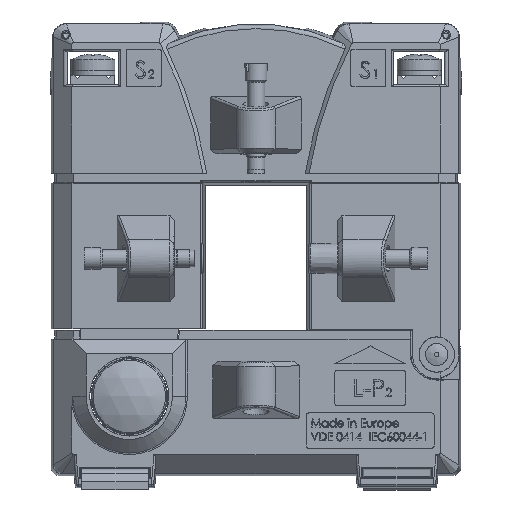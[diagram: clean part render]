
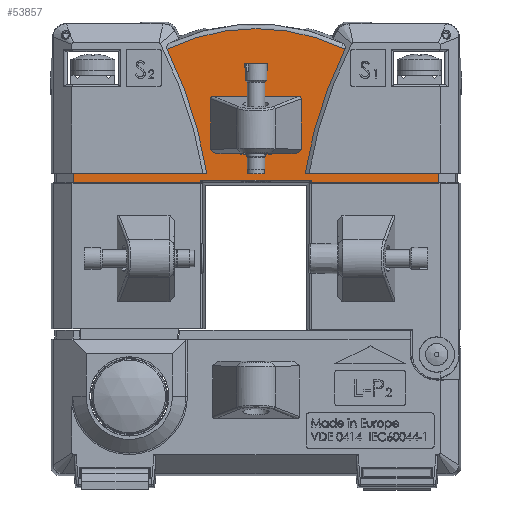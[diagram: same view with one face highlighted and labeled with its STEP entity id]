
A CAD part, top view. The second image highlights one B-rep face of the part: STEP entity #53857.
In plain terms, the highlighted planar face has unit normal (0, 0, 1).
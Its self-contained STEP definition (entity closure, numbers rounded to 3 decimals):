
#1165=ELLIPSE('',#57369,0.502,0.5);
#1166=ELLIPSE('',#57373,0.502,0.5);
#1167=ELLIPSE('',#57374,0.588,0.5);
#1168=ELLIPSE('',#57375,0.588,0.5);
#2577=FACE_BOUND('',#6639,.T.);
#3500=FACE_OUTER_BOUND('',#6638,.T.);
#6638=EDGE_LOOP('',(#36971,#36972,#36973,#36974,#36975,#36976,#36977,#36978,
#36979,#36980,#36981,#36982,#36983,#36984));
#6639=EDGE_LOOP('',(#36985,#36986,#36987,#36988,#36989,#36990,#36991,#36992));
#10426=LINE('',#80992,#15790);
#10430=LINE('',#81020,#15794);
#10431=LINE('',#81022,#15795);
#10432=LINE('',#81026,#15796);
#10433=LINE('',#81028,#15797);
#10434=LINE('',#81030,#15798);
#10435=LINE('',#81038,#15799);
#10436=LINE('',#81040,#15800);
#10437=LINE('',#81042,#15801);
#10438=LINE('',#81045,#15802);
#10439=LINE('',#81051,#15803);
#10440=LINE('',#81053,#15804);
#10441=LINE('',#81055,#15805);
#10442=LINE('',#81057,#15806);
#10443=LINE('',#81058,#15807);
#15790=VECTOR('',#63509,1000.);
#15794=VECTOR('',#63525,1000.);
#15795=VECTOR('',#63526,1000.);
#15796=VECTOR('',#63529,1000.);
#15797=VECTOR('',#63530,1000.);
#15798=VECTOR('',#63531,1000.);
#15799=VECTOR('',#63538,1000.);
#15800=VECTOR('',#63539,1000.);
#15801=VECTOR('',#63540,1000.);
#15802=VECTOR('',#63543,1000.);
#15803=VECTOR('',#63548,1000.);
#15804=VECTOR('',#63549,1000.);
#15805=VECTOR('',#63550,1000.);
#15806=VECTOR('',#63551,1000.);
#15807=VECTOR('',#63552,1000.);
#20676=CIRCLE('',#57370,100.117);
#20677=CIRCLE('',#57371,45.969);
#20678=CIRCLE('',#57372,100.117);
#22859=VERTEX_POINT('',#80990);
#22860=VERTEX_POINT('',#80991);
#22867=VERTEX_POINT('',#81018);
#22868=VERTEX_POINT('',#81019);
#22869=VERTEX_POINT('',#81021);
#22870=VERTEX_POINT('',#81023);
#22871=VERTEX_POINT('',#81025);
#22872=VERTEX_POINT('',#81027);
#22873=VERTEX_POINT('',#81029);
#22874=VERTEX_POINT('',#81031);
#22875=VERTEX_POINT('',#81033);
#22876=VERTEX_POINT('',#81035);
#22877=VERTEX_POINT('',#81037);
#22878=VERTEX_POINT('',#81039);
#22879=VERTEX_POINT('',#81041);
#22880=VERTEX_POINT('',#81043);
#22881=VERTEX_POINT('',#81046);
#22882=VERTEX_POINT('',#81048);
#22883=VERTEX_POINT('',#81050);
#22884=VERTEX_POINT('',#81052);
#22885=VERTEX_POINT('',#81054);
#22886=VERTEX_POINT('',#81056);
#28329=EDGE_CURVE('',#22859,#22860,#10426,.T.);
#28338=EDGE_CURVE('',#22867,#22868,#10430,.T.);
#28339=EDGE_CURVE('',#22868,#22869,#10431,.T.);
#28340=EDGE_CURVE('',#22869,#22870,#1165,.T.);
#28341=EDGE_CURVE('',#22870,#22871,#10432,.T.);
#28342=EDGE_CURVE('',#22871,#22872,#10433,.T.);
#28343=EDGE_CURVE('',#22873,#22872,#10434,.T.);
#28344=EDGE_CURVE('',#22873,#22874,#20676,.T.);
#28345=EDGE_CURVE('',#22874,#22875,#20677,.T.);
#28346=EDGE_CURVE('',#22875,#22876,#20678,.T.);
#28347=EDGE_CURVE('',#22877,#22876,#10435,.T.);
#28348=EDGE_CURVE('',#22878,#22877,#10436,.T.);
#28349=EDGE_CURVE('',#22878,#22879,#10437,.T.);
#28350=EDGE_CURVE('',#22879,#22880,#1166,.T.);
#28351=EDGE_CURVE('',#22880,#22867,#10438,.T.);
#28352=EDGE_CURVE('',#22881,#22860,#1167,.T.);
#28353=EDGE_CURVE('',#22859,#22882,#1168,.T.);
#28354=EDGE_CURVE('',#22882,#22883,#10439,.T.);
#28355=EDGE_CURVE('',#22883,#22884,#10440,.T.);
#28356=EDGE_CURVE('',#22884,#22885,#10441,.T.);
#28357=EDGE_CURVE('',#22885,#22886,#10442,.T.);
#28358=EDGE_CURVE('',#22886,#22881,#10443,.T.);
#36971=ORIENTED_EDGE('',*,*,#28338,.T.);
#36972=ORIENTED_EDGE('',*,*,#28339,.T.);
#36973=ORIENTED_EDGE('',*,*,#28340,.T.);
#36974=ORIENTED_EDGE('',*,*,#28341,.T.);
#36975=ORIENTED_EDGE('',*,*,#28342,.T.);
#36976=ORIENTED_EDGE('',*,*,#28343,.F.);
#36977=ORIENTED_EDGE('',*,*,#28344,.T.);
#36978=ORIENTED_EDGE('',*,*,#28345,.T.);
#36979=ORIENTED_EDGE('',*,*,#28346,.T.);
#36980=ORIENTED_EDGE('',*,*,#28347,.F.);
#36981=ORIENTED_EDGE('',*,*,#28348,.F.);
#36982=ORIENTED_EDGE('',*,*,#28349,.T.);
#36983=ORIENTED_EDGE('',*,*,#28350,.T.);
#36984=ORIENTED_EDGE('',*,*,#28351,.T.);
#36985=ORIENTED_EDGE('',*,*,#28352,.T.);
#36986=ORIENTED_EDGE('',*,*,#28329,.F.);
#36987=ORIENTED_EDGE('',*,*,#28353,.T.);
#36988=ORIENTED_EDGE('',*,*,#28354,.T.);
#36989=ORIENTED_EDGE('',*,*,#28355,.T.);
#36990=ORIENTED_EDGE('',*,*,#28356,.T.);
#36991=ORIENTED_EDGE('',*,*,#28357,.T.);
#36992=ORIENTED_EDGE('',*,*,#28358,.T.);
#51993=PLANE('',#57368);
#53857=ADVANCED_FACE('',(#3500,#2577),#51993,.T.);
#57368=AXIS2_PLACEMENT_3D('',#81017,#63523,#63524);
#57369=AXIS2_PLACEMENT_3D('',#81024,#63527,#63528);
#57370=AXIS2_PLACEMENT_3D('',#81032,#63532,#63533);
#57371=AXIS2_PLACEMENT_3D('',#81034,#63534,#63535);
#57372=AXIS2_PLACEMENT_3D('',#81036,#63536,#63537);
#57373=AXIS2_PLACEMENT_3D('',#81044,#63541,#63542);
#57374=AXIS2_PLACEMENT_3D('',#81047,#63544,#63545);
#57375=AXIS2_PLACEMENT_3D('',#81049,#63546,#63547);
#63509=DIRECTION('',(-1.,0.,0.));
#63523=DIRECTION('center_axis',(0.,0.,1.));
#63524=DIRECTION('ref_axis',(1.,0.,0.));
#63525=DIRECTION('',(1.,0.,0.));
#63526=DIRECTION('',(0.,-1.,0.));
#63527=DIRECTION('center_axis',(0.,0.,
-1.));
#63528=DIRECTION('ref_axis',(-0.371,0.929,0.));
#63529=DIRECTION('',(1.,0.,0.));
#63530=DIRECTION('',(0.,1.,0.));
#63531=DIRECTION('',(1.,0.,0.));
#63532=DIRECTION('center_axis',(0.,0.,-1.));
#63533=DIRECTION('ref_axis',(1.,0.,0.));
#63534=DIRECTION('center_axis',(0.,0.,1.));
#63535=DIRECTION('ref_axis',(1.,0.,0.));
#63536=DIRECTION('center_axis',(0.,0.,-1.));
#63537=DIRECTION('ref_axis',(1.,0.,0.));
#63538=DIRECTION('',(1.,0.,0.));
#63539=DIRECTION('',(0.,1.,0.));
#63540=DIRECTION('',(1.,0.,0.));
#63541=DIRECTION('center_axis',(0.,0.,
-1.));
#63542=DIRECTION('ref_axis',(0.371,0.929,0.));
#63543=DIRECTION('',(0.,1.,0.));
#63544=DIRECTION('center_axis',(0.,0.,-1.));
#63545=DIRECTION('ref_axis',(0.934,-0.358,0.));
#63546=DIRECTION('center_axis',(0.,0.,-1.));
#63547=DIRECTION('ref_axis',(0.934,0.358,0.));
#63548=DIRECTION('',(0.,-1.,0.));
#63549=DIRECTION('',(-0.753,-0.658,0.));
#63550=DIRECTION('',(-1.,0.,0.));
#63551=DIRECTION('',(-0.753,0.658,0.));
#63552=DIRECTION('',(0.,1.,0.));
#80990=CARTESIAN_POINT('',(9.762,74.8,16.2));
#80991=CARTESIAN_POINT('',(-9.762,74.8,16.2));
#80992=CARTESIAN_POINT('',(0.,74.8,16.2));
#81017=CARTESIAN_POINT('Origin',(0.,44.26,
16.2));
#81018=CARTESIAN_POINT('',(-12.549,55.808,16.2));
#81019=CARTESIAN_POINT('',(12.549,55.808,16.2));
#81020=CARTESIAN_POINT('',(12.066,55.808,16.2));
#81021=CARTESIAN_POINT('',(12.549,55.25,16.2));
#81022=CARTESIAN_POINT('',(12.549,55.25,16.2));
#81023=CARTESIAN_POINT('',(12.564,55.25,16.2));
#81024=CARTESIAN_POINT('Origin',(12.566,54.748,16.2));
#81025=CARTESIAN_POINT('',(41.444,55.25,16.2));
#81026=CARTESIAN_POINT('',(-41.444,55.25,16.2));
#81027=CARTESIAN_POINT('',(41.444,57.35,16.2));
#81028=CARTESIAN_POINT('',(41.444,57.35,16.2));
#81029=CARTESIAN_POINT('',(11.16,57.35,16.2));
#81030=CARTESIAN_POINT('',(-41.444,57.35,16.2));
#81031=CARTESIAN_POINT('',(20.151,85.576,16.2));
#81032=CARTESIAN_POINT('Origin',(110.,41.411,16.2));
#81033=CARTESIAN_POINT('',(-20.151,85.576,16.2));
#81034=CARTESIAN_POINT('Origin',(0.,44.26,
16.2));
#81035=CARTESIAN_POINT('',(-11.16,57.35,16.2));
#81036=CARTESIAN_POINT('Origin',(-110.,41.411,16.2));
#81037=CARTESIAN_POINT('',(-41.444,57.35,16.2));
#81038=CARTESIAN_POINT('',(-41.444,57.35,16.2));
#81039=CARTESIAN_POINT('',(-41.444,55.25,16.2));
#81040=CARTESIAN_POINT('',(-41.444,57.35,16.2));
#81041=CARTESIAN_POINT('',(-12.564,55.25,16.2));
#81042=CARTESIAN_POINT('',(-41.444,55.25,16.2));
#81043=CARTESIAN_POINT('',(-12.549,55.25,16.2));
#81044=CARTESIAN_POINT('Origin',(-12.566,54.748,16.2));
#81045=CARTESIAN_POINT('',(-12.549,55.325,16.2));
#81046=CARTESIAN_POINT('',(-10.277,74.343,16.2));
#81047=CARTESIAN_POINT('Origin',(-9.699,74.288,16.2));
#81048=CARTESIAN_POINT('',(10.277,74.343,16.2));
#81049=CARTESIAN_POINT('Origin',(9.699,74.288,16.2));
#81050=CARTESIAN_POINT('',(10.277,62.809,16.2));
#81051=CARTESIAN_POINT('',(10.277,44.26,16.2));
#81052=CARTESIAN_POINT('',(9.122,61.8,16.2));
#81053=CARTESIAN_POINT('',(6.945,59.897,16.2));
#81054=CARTESIAN_POINT('',(-9.122,61.8,16.2));
#81055=CARTESIAN_POINT('',(0.,61.8,16.2));
#81056=CARTESIAN_POINT('',(-10.277,62.809,16.2));
#81057=CARTESIAN_POINT('',(-6.945,59.897,16.2));
#81058=CARTESIAN_POINT('',(-10.277,44.26,16.2));
